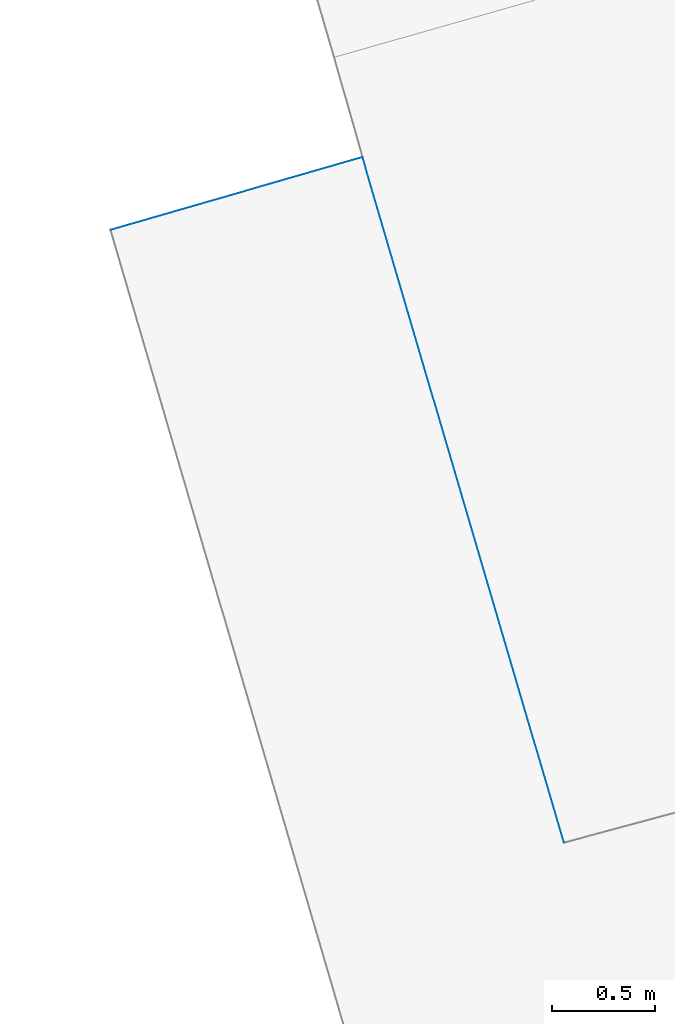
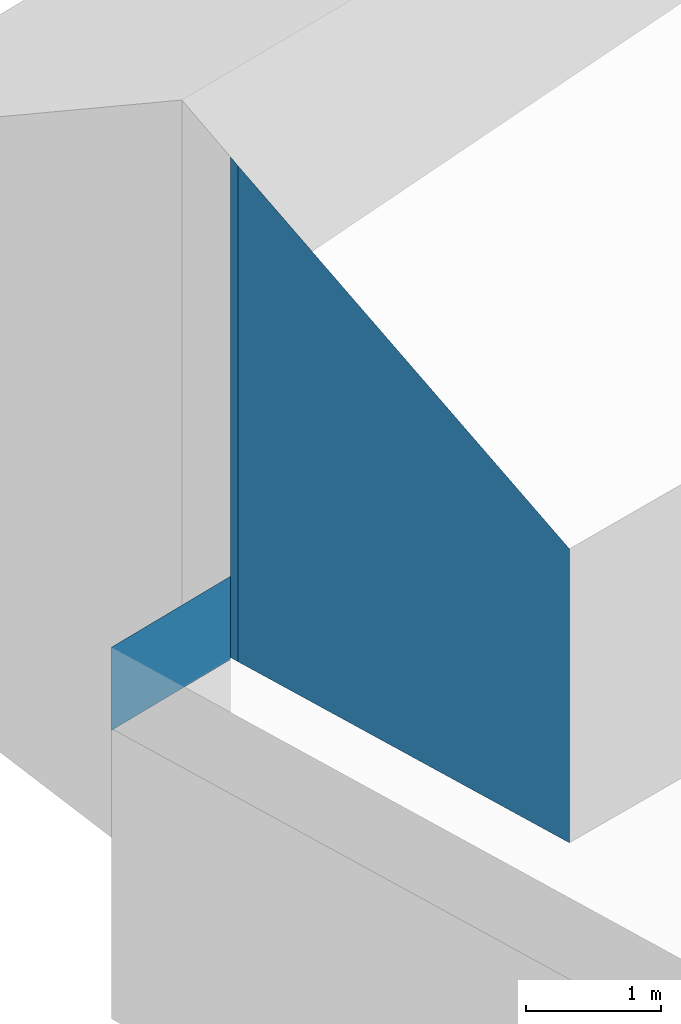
# Not in any storey, part 16 of 57: 4 walls.
"""IFC4 building model written with IfcOpenShell, lengths in metres."""

from ifc_helpers import new_model, entity, si_unit, converted_unit, frame, origin, place, context, subcontext, project, spatial, face_set, surface_model, element, save


model = new_model("IFC4")

# Units and contexts
model_context = context("Model", 3, precision=1e-05, world=origin())
body_context = subcontext(model_context, "Body", "Model", "MODEL_VIEW")
ifc_project = project(units=[converted_unit("PLANEANGLEUNIT", "DEGREE", entity("IfcRatioMeasure", 0.0174532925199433), si_unit("PLANEANGLEUNIT", "RADIAN"), dimensions=[0, 0, 0, 0, 0, 0, 0]), si_unit("AREAUNIT", "SQUARE_METRE"), si_unit("LENGTHUNIT", "METRE")], contexts=[model_context])

# Site, building
site_placement = place(None, origin())
site = spatial("IfcSite", under=ifc_project, at=site_placement, Name="_site")
building_placement = place(site_placement, origin())
building = spatial("IfcBuilding", under=site, at=building_placement, Name="_building")

# Walls
wall_1_placement = place(building_placement, origin())
element("IfcWall", 1, at=wall_1_placement, inside=building, Name="Wall", PredefinedType="NOTDEFINED", context=body_context, shape_type="SurfaceModel", body=[
    surface_model("IfcFaceBasedSurfaceModel", [(97.291, 127.605, 120.37), (96.337, 130.849, 122.19), (96.337, 130.849, 117.72), (97.291, 127.605, 117.72)], [face_set([[[0, 1, 2, 3]]])]),
])
wall_2_placement = place(building_placement, origin())
element("IfcWall", 2, at=wall_2_placement, inside=building, Name="Wall", PredefinedType="NOTDEFINED", context=body_context, shape_type="SurfaceModel", body=[
    surface_model("IfcFaceBasedSurfaceModel", [(96.337, 130.849, 122.19), (96.318, 130.92, 122.23), (96.318, 130.92, 117.72), (96.337, 130.849, 117.72)], [face_set([[[0, 1, 2, 3]]])]),
])
for number, where, name in (
    (3, (0.0, 0.0, 0.0), "Wall"),
    (4, (0.0, 0.0, 0.0), "Wall"),
):
    element("IfcWall", number, at=place(building_placement, frame(where)), inside=building, Name=name, PredefinedType="NOTDEFINED", context=body_context, shape_type="SurfaceModel", body=[
        surface_model("IfcFaceBasedSurfaceModel", [(96.318, 130.92, 117.704), (95.099, 130.568, 117.704), (95.099, 130.568, 118.454), (96.318, 130.92, 118.454)], [face_set([[[0, 1, 2, 3]]])]),
    ])

save(model, "model.ifc")
